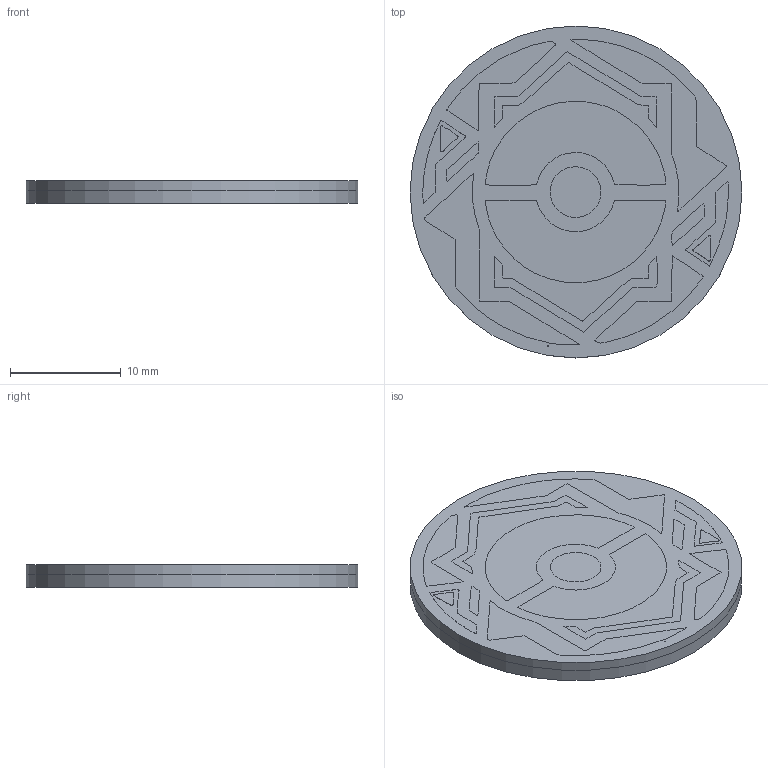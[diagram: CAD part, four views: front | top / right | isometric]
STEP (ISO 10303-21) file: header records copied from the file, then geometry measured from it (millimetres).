
FILE_DESCRIPTION(/* description */ (''),/* implementation_level */ '2;1');
FILE_NAME(/* name */ '3ColorSpecialSet02STEP.step',/* time_stamp */ '2025-11-19T18:17:34+09:00',/* author */ (''),/* organization */ (''),/* preprocessor_version */ 'ST-DEVELOPER v20.1',/* originating_system */ 'Autodesk Translation Framework v14.21.0.0',/* authorisation */ '');
FILE_SCHEMA (('AUTOMOTIVE_DESIGN { 1 0 10303 214 3 1 1 }'));
Length unit declared in the file: millimetre
Products named in the file (5): SpecialSet02; GoldBorder; LightRed; DarkRed; DarkGold
Assembly tree (4 placements, depth 2):
  SpecialSet02
    GoldBorder
    LightRed
    DarkRed
    DarkGold
Bounding box: 30 x 30 x 2 mm (x, y, z)
Volume: 1312.3 mm3; surface area: 3953.3 mm2
Topology: 17 solids, 17 shells, 1381 faces, 3933 edges, 2622 vertices
Faces by surface type: bspline 1098, plane 281, cylinder 2
Full cylindrical faces by diameter (mm): 30 x2
Entity records: 51049 total; most frequent: CARTESIAN_POINT 25384, ORIENTED_EDGE 7866, EDGE_CURVE 3933, VERTEX_POINT 2622, DIRECTION 2325, LINE 1733, VECTOR 1733, EDGE_LOOP 1449
